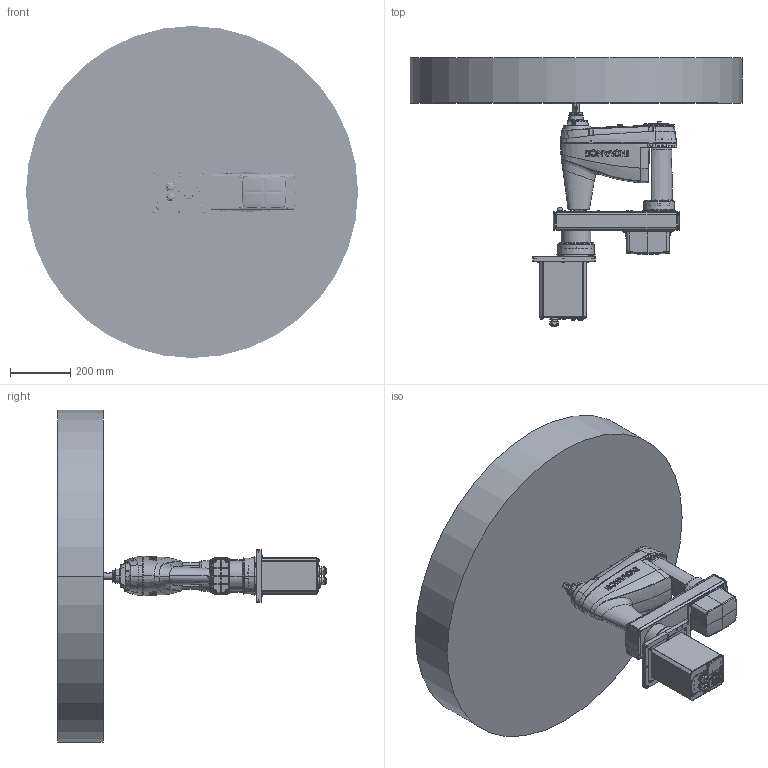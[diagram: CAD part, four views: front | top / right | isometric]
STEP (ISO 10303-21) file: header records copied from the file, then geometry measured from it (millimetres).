
FILE_DESCRIPTION((''),'2;1');
FILE_NAME('IR-TS5-55Z15S3_ASM','2023-02-23T',('10007629'),(''),'CREO PARAMETRIC BY PTC INC, 2015290','CREO PARAMETRIC BY PTC INC, 2015290','');
FILE_SCHEMA(('CONFIG_CONTROL_DESIGN','GEOMETRIC_VALIDATION_PROPERTIES_MIM'));
Products named in the file (6): BASE; J1; J2; SCREW; WORKING_RANGE; IR-TS5-55Z15S3_ASM
Assembly tree (5 placements, depth 2):
  IR-TS5-55Z15S3_ASM
    BASE
    J1
    J2
    SCREW
    WORKING_RANGE
Bounding box: 1100 x 889.7 x 1100 mm (x, y, z)
Volume: 158702159.8 mm3; surface area: 3442974.4 mm2
Topology: 5 solids, 198 shells, 5749 faces, 14148 edges, 8921 vertices
Faces by surface type: plane 2482, cylinder 1832, cone 600, bspline 482, torus 147, sphere 132, extrusion 64, revolution 10
Entity records: 248388 total; most frequent: CARTESIAN_POINT 70853, ORIENTED_EDGE 27844, DIRECTION 27516, PRESENTATION_STYLE_ASSIGNMENT 14085, STYLED_ITEM 13927, CURVE_STYLE 13922, EDGE_CURVE 13922, AXIS2_PLACEMENT_3D 10559
